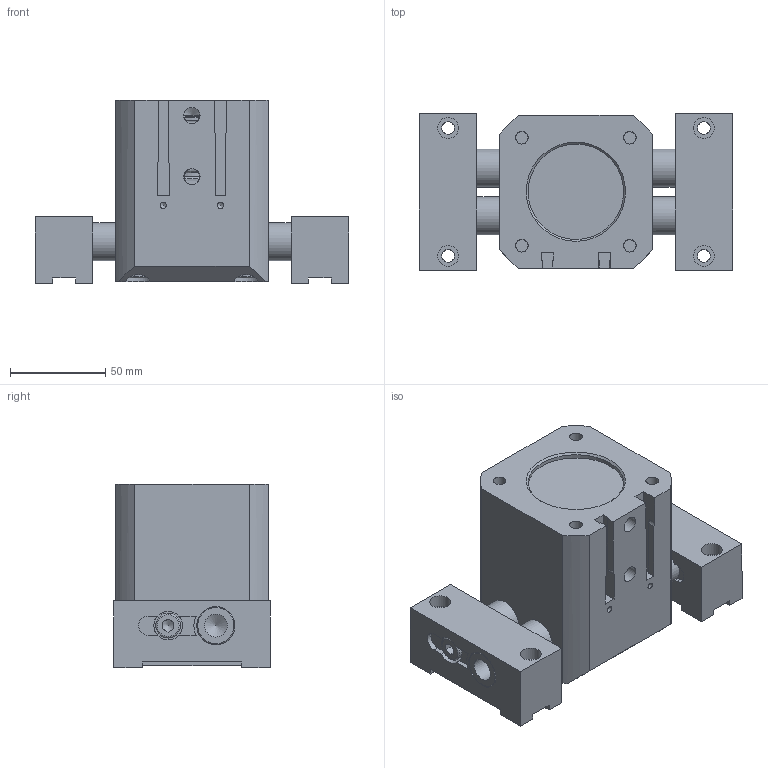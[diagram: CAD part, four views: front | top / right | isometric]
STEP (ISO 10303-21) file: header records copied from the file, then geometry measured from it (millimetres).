
FILE_DESCRIPTION((''),'2;1');
FILE_NAME('T:\CAD\Standard\Daten\3D-Datenbank\GP\4 - 3D-CAD-Daten GP 050-125\GP100\step-Daten\G-GP100-l2-GÖ+UB open.stp','2013-11-07T12:05:12',('Dirk'),(''),'Autodesk Inventor 2011','Autodesk Inventor 2011','');
FILE_SCHEMA(('AUTOMOTIVE_DESIGN { 1 0 10303 214 1 1 1 1 }'));
Length unit declared in the file: millimetre
Products named in the file (1): Bauteil58
Bounding box: 164.01 x 82 x 96 mm (x, y, z)
Volume: 636891.7 mm3; surface area: 145383.5 mm2
Topology: 1 solids, 18 shells, 421 faces, 1039 edges, 668 vertices
Faces by surface type: plane 235, cylinder 121, cone 40, torus 24, bspline 1
Full cylindrical faces by diameter (mm): 3.242 x2, 6.647 x10, 8 x6, 8.2 x4, 8.376 x1, 8.566 x2, 9 x2, 10 x1, 11 x6, 12 x2, 13 x6, 15 x8, 20 x7, 22 x5, 23 x2, 24 x1, 28.4 x2, 33 x2, 45 x1, 48 x2, 50 x1, 52 x2, 54.2 x1, 61.1 x2, 62 x1, 64 x5
Entity records: 12687 total; most frequent: CARTESIAN_POINT 3083, DIRECTION 1930, ORIENTED_EDGE 1654, EDGE_CURVE 827, AXIS2_PLACEMENT_3D 752, EDGE_LOOP 639, VERTEX_POINT 598, VECTOR 426
